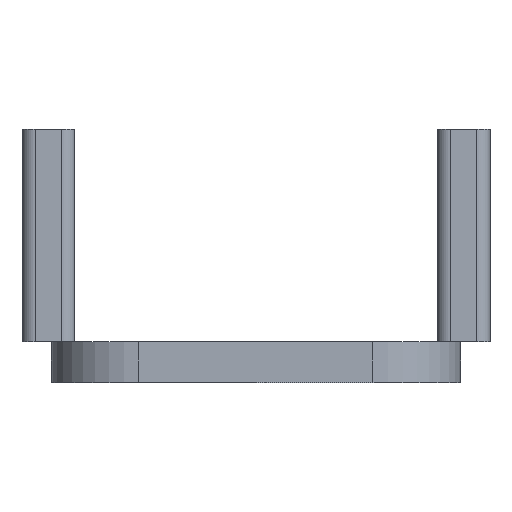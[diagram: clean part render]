
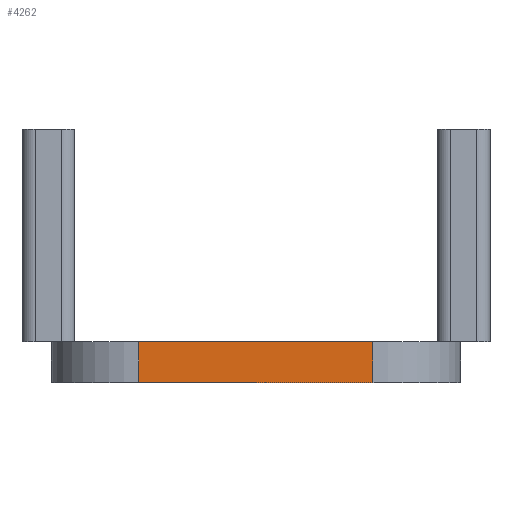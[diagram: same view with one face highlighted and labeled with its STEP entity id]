
A CAD part, left-side view. The second image highlights one B-rep face of the part: STEP entity #4262.
In plain terms, the highlighted planar face has unit normal (-1, 0, 0).
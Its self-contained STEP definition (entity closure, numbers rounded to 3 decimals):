
#66 = PLANE('',#67);
#67 = AXIS2_PLACEMENT_3D('',#68,#69,#70);
#68 = CARTESIAN_POINT('',(0.,-47.,-12.3));
#69 = DIRECTION('',(0.,0.,-1.));
#70 = DIRECTION('',(-1.,0.,0.));
#98 = PLANE('',#99);
#99 = AXIS2_PLACEMENT_3D('',#100,#101,#102);
#100 = CARTESIAN_POINT('',(0.,-47.,-10.9));
#101 = DIRECTION('',(0.,0.,-1.));
#102 = DIRECTION('',(-1.,0.,0.));
#941 = VERTEX_POINT('',#942);
#942 = CARTESIAN_POINT('',(-20.,-43.,-10.9));
#957 = CYLINDRICAL_SURFACE('',#958,3.);
#958 = AXIS2_PLACEMENT_3D('',#959,#960,#961);
#959 = CARTESIAN_POINT('',(-17.,-43.,-10.9));
#960 = DIRECTION('',(0.,0.,-1.));
#961 = DIRECTION('',(-1.,0.,0.));
#969 = EDGE_CURVE('',#970,#941,#972,.T.);
#970 = VERTEX_POINT('',#971);
#971 = CARTESIAN_POINT('',(-20.,-51.,-10.9));
#972 = SURFACE_CURVE('',#973,(#977,#984),.PCURVE_S1.);
#973 = LINE('',#974,#975);
#974 = CARTESIAN_POINT('',(-20.,-51.,-10.9));
#975 = VECTOR('',#976,1.);
#976 = DIRECTION('',(0.,1.,0.));
#977 = PCURVE('',#98,#978);
#978 = DEFINITIONAL_REPRESENTATION('',(#979),#983);
#979 = LINE('',#980,#981);
#980 = CARTESIAN_POINT('',(20.,-4.));
#981 = VECTOR('',#982,1.);
#982 = DIRECTION('',(0.,1.));
#983 = ( GEOMETRIC_REPRESENTATION_CONTEXT(2) 
PARAMETRIC_REPRESENTATION_CONTEXT() REPRESENTATION_CONTEXT('2D SPACE',''
  ) );
#984 = PCURVE('',#985,#990);
#985 = PLANE('',#986);
#986 = AXIS2_PLACEMENT_3D('',#987,#988,#989);
#987 = CARTESIAN_POINT('',(-20.,-51.,-10.9));
#988 = DIRECTION('',(-1.,0.,0.));
#989 = DIRECTION('',(0.,1.,0.));
#990 = DEFINITIONAL_REPRESENTATION('',(#991),#995);
#991 = LINE('',#992,#993);
#992 = CARTESIAN_POINT('',(0.,0.));
#993 = VECTOR('',#994,1.);
#994 = DIRECTION('',(1.,0.));
#995 = ( GEOMETRIC_REPRESENTATION_CONTEXT(2) 
PARAMETRIC_REPRESENTATION_CONTEXT() REPRESENTATION_CONTEXT('2D SPACE',''
  ) );
#1014 = CYLINDRICAL_SURFACE('',#1015,3.);
#1015 = AXIS2_PLACEMENT_3D('',#1016,#1017,#1018);
#1016 = CARTESIAN_POINT('',(-17.,-51.,-10.9));
#1017 = DIRECTION('',(0.,0.,-1.));
#1018 = DIRECTION('',(0.,-1.,-0.));
#4219 = VERTEX_POINT('',#4220);
#4220 = CARTESIAN_POINT('',(-20.,-43.,-12.3));
#4242 = EDGE_CURVE('',#941,#4219,#4243,.T.);
#4243 = SURFACE_CURVE('',#4244,(#4248,#4255),.PCURVE_S1.);
#4244 = LINE('',#4245,#4246);
#4245 = CARTESIAN_POINT('',(-20.,-43.,-10.9));
#4246 = VECTOR('',#4247,1.);
#4247 = DIRECTION('',(0.,0.,-1.));
#4248 = PCURVE('',#957,#4249);
#4249 = DEFINITIONAL_REPRESENTATION('',(#4250),#4254);
#4250 = LINE('',#4251,#4252);
#4251 = CARTESIAN_POINT('',(0.,0.));
#4252 = VECTOR('',#4253,1.);
#4253 = DIRECTION('',(0.,1.));
#4254 = ( GEOMETRIC_REPRESENTATION_CONTEXT(2) 
PARAMETRIC_REPRESENTATION_CONTEXT() REPRESENTATION_CONTEXT('2D SPACE',''
  ) );
#4255 = PCURVE('',#985,#4256);
#4256 = DEFINITIONAL_REPRESENTATION('',(#4257),#4261);
#4257 = LINE('',#4258,#4259);
#4258 = CARTESIAN_POINT('',(8.,0.));
#4259 = VECTOR('',#4260,1.);
#4260 = DIRECTION('',(0.,1.));
#4261 = ( GEOMETRIC_REPRESENTATION_CONTEXT(2) 
PARAMETRIC_REPRESENTATION_CONTEXT() REPRESENTATION_CONTEXT('2D SPACE',''
  ) );
#4262 = ADVANCED_FACE('',(#4263),#985,.T.);
#4263 = FACE_BOUND('',#4264,.T.);
#4264 = EDGE_LOOP('',(#4265,#4266,#4267,#4290));
#4265 = ORIENTED_EDGE('',*,*,#969,.T.);
#4266 = ORIENTED_EDGE('',*,*,#4242,.T.);
#4267 = ORIENTED_EDGE('',*,*,#4268,.F.);
#4268 = EDGE_CURVE('',#4269,#4219,#4271,.T.);
#4269 = VERTEX_POINT('',#4270);
#4270 = CARTESIAN_POINT('',(-20.,-51.,-12.3));
#4271 = SURFACE_CURVE('',#4272,(#4276,#4283),.PCURVE_S1.);
#4272 = LINE('',#4273,#4274);
#4273 = CARTESIAN_POINT('',(-20.,-51.,-12.3));
#4274 = VECTOR('',#4275,1.);
#4275 = DIRECTION('',(0.,1.,0.));
#4276 = PCURVE('',#985,#4277);
#4277 = DEFINITIONAL_REPRESENTATION('',(#4278),#4282);
#4278 = LINE('',#4279,#4280);
#4279 = CARTESIAN_POINT('',(0.,1.4));
#4280 = VECTOR('',#4281,1.);
#4281 = DIRECTION('',(1.,0.));
#4282 = ( GEOMETRIC_REPRESENTATION_CONTEXT(2) 
PARAMETRIC_REPRESENTATION_CONTEXT() REPRESENTATION_CONTEXT('2D SPACE',''
  ) );
#4283 = PCURVE('',#66,#4284);
#4284 = DEFINITIONAL_REPRESENTATION('',(#4285),#4289);
#4285 = LINE('',#4286,#4287);
#4286 = CARTESIAN_POINT('',(20.,-4.));
#4287 = VECTOR('',#4288,1.);
#4288 = DIRECTION('',(0.,1.));
#4289 = ( GEOMETRIC_REPRESENTATION_CONTEXT(2) 
PARAMETRIC_REPRESENTATION_CONTEXT() REPRESENTATION_CONTEXT('2D SPACE',''
  ) );
#4290 = ORIENTED_EDGE('',*,*,#4291,.F.);
#4291 = EDGE_CURVE('',#970,#4269,#4292,.T.);
#4292 = SURFACE_CURVE('',#4293,(#4297,#4304),.PCURVE_S1.);
#4293 = LINE('',#4294,#4295);
#4294 = CARTESIAN_POINT('',(-20.,-51.,-10.9));
#4295 = VECTOR('',#4296,1.);
#4296 = DIRECTION('',(0.,0.,-1.));
#4297 = PCURVE('',#985,#4298);
#4298 = DEFINITIONAL_REPRESENTATION('',(#4299),#4303);
#4299 = LINE('',#4300,#4301);
#4300 = CARTESIAN_POINT('',(0.,0.));
#4301 = VECTOR('',#4302,1.);
#4302 = DIRECTION('',(0.,1.));
#4303 = ( GEOMETRIC_REPRESENTATION_CONTEXT(2) 
PARAMETRIC_REPRESENTATION_CONTEXT() REPRESENTATION_CONTEXT('2D SPACE',''
  ) );
#4304 = PCURVE('',#1014,#4305);
#4305 = DEFINITIONAL_REPRESENTATION('',(#4306),#4310);
#4306 = LINE('',#4307,#4308);
#4307 = CARTESIAN_POINT('',(1.571,0.));
#4308 = VECTOR('',#4309,1.);
#4309 = DIRECTION('',(0.,1.));
#4310 = ( GEOMETRIC_REPRESENTATION_CONTEXT(2) 
PARAMETRIC_REPRESENTATION_CONTEXT() REPRESENTATION_CONTEXT('2D SPACE',''
  ) );
